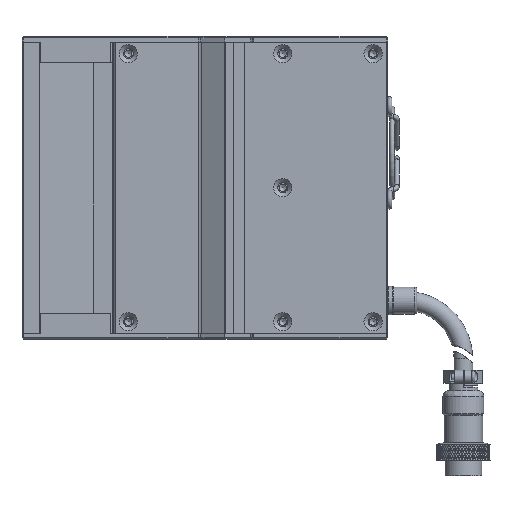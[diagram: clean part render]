
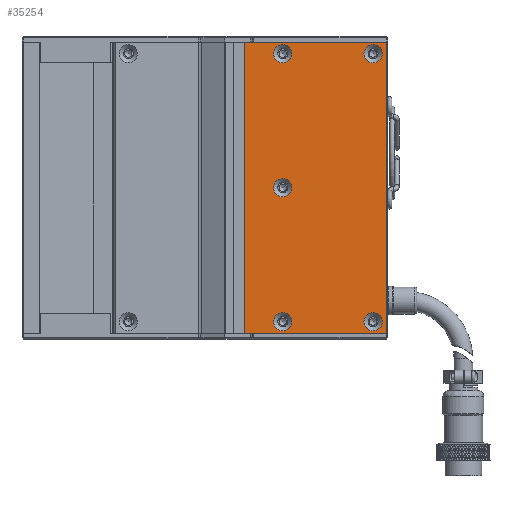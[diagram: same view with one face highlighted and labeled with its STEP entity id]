
A CAD part, left-side view. The second image highlights one B-rep face of the part: STEP entity #35254.
In plain terms, the highlighted planar face has unit normal (-1, 0, 0).
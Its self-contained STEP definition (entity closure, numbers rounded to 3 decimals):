
#906 = CARTESIAN_POINT ( 'NONE',  ( 163.975, 51.982, 300.011 ) ) ;
#2091 = VERTEX_POINT ( 'NONE', #115904 ) ;
#2145 = DIRECTION ( 'NONE',  ( -1., 0., 0. ) ) ;
#2334 = DIRECTION ( 'NONE',  ( 0., 0., 1. ) ) ;
#2800 = FACE_BOUND ( 'NONE', #61243, .T. ) ;
#2882 = LINE ( 'NONE', #26074, #117939 ) ;
#5876 = VERTEX_POINT ( 'NONE', #13876 ) ;
#7036 = DIRECTION ( 'NONE',  ( 0., -1., 0. ) ) ;
#7456 = ORIENTED_EDGE ( 'NONE', *, *, #105781, .T. ) ;
#10095 = LINE ( 'NONE', #49009, #87202 ) ;
#10440 = AXIS2_PLACEMENT_3D ( 'NONE', #72168, #101448, #110835 ) ;
#10711 = CARTESIAN_POINT ( 'NONE',  ( 163.975, 20.982, 204.861 ) ) ;
#13513 = EDGE_CURVE ( 'NONE', #82014, #82014, #19200, .T. ) ;
#13876 = CARTESIAN_POINT ( 'NONE',  ( 163.975, 16.482, 300.861 ) ) ;
#15675 = VECTOR ( 'NONE', #72703, 1000. ) ;
#16471 = EDGE_CURVE ( 'NONE', #58435, #58435, #117996, .T. ) ;
#17095 = EDGE_CURVE ( 'NONE', #45537, #66423, #120801, .T. ) ;
#18237 = CARTESIAN_POINT ( 'NONE',  ( 163.975, 15.982, 200.861 ) ) ;
#19200 = CIRCLE ( 'NONE', #25193, 3.15 ) ;
#21295 = VERTEX_POINT ( 'NONE', #113170 ) ;
#23503 = EDGE_LOOP ( 'NONE', ( #95966 ) ) ;
#24568 = EDGE_CURVE ( 'NONE', #47797, #2091, #49255, .T. ) ;
#24766 = EDGE_LOOP ( 'NONE', ( #108491 ) ) ;
#25193 = AXIS2_PLACEMENT_3D ( 'NONE', #10711, #94871, #28232 ) ;
#26074 = CARTESIAN_POINT ( 'NONE',  ( 163.975, 65.232, 200.861 ) ) ;
#26249 = AXIS2_PLACEMENT_3D ( 'NONE', #82634, #92758, #110352 ) ;
#27563 = FACE_BOUND ( 'NONE', #49649, .T. ) ;
#28232 = DIRECTION ( 'NONE',  ( 0., 0., 1. ) ) ;
#28892 = CARTESIAN_POINT ( 'NONE',  ( 163.975, 51.982, 204.861 ) ) ;
#29504 = ORIENTED_EDGE ( 'NONE', *, *, #13513, .F. ) ;
#34601 = VERTEX_POINT ( 'NONE', #112997 ) ;
#35254 = ADVANCED_FACE ( 'NONE', ( #40594, #79950, #27563, #2800, #98905, #86988 ), #100616, .F. ) ;
#35912 = LINE ( 'NONE', #18237, #15675 ) ;
#37603 = CARTESIAN_POINT ( 'NONE',  ( 163.975, 61.986, 200.861 ) ) ;
#38849 = CIRCLE ( 'NONE', #107717, 3.15 ) ;
#40594 = FACE_BOUND ( 'NONE', #71960, .T. ) ;
#40690 = CARTESIAN_POINT ( 'NONE',  ( 163.975, 51.982, 254.011 ) ) ;
#43178 = CARTESIAN_POINT ( 'NONE',  ( 163.975, 15.982, 300.861 ) ) ;
#45537 = VERTEX_POINT ( 'NONE', #46378 ) ;
#45621 = ORIENTED_EDGE ( 'NONE', *, *, #73446, .F. ) ;
#46378 = CARTESIAN_POINT ( 'NONE',  ( 163.975, 65.232, 200.861 ) ) ;
#47797 = VERTEX_POINT ( 'NONE', #73793 ) ;
#48030 = DIRECTION ( 'NONE',  ( 0., 0., 1. ) ) ;
#49009 = CARTESIAN_POINT ( 'NONE',  ( 163.975, 16.482, 300.861 ) ) ;
#49255 = LINE ( 'NONE', #43178, #68246 ) ;
#49402 = EDGE_CURVE ( 'NONE', #111524, #111524, #81762, .T. ) ;
#49649 = EDGE_LOOP ( 'NONE', ( #54154 ) ) ;
#49864 = ORIENTED_EDGE ( 'NONE', *, *, #66727, .T. ) ;
#53231 = AXIS2_PLACEMENT_3D ( 'NONE', #28892, #113495, #66684 ) ;
#54154 = ORIENTED_EDGE ( 'NONE', *, *, #49402, .F. ) ;
#54707 = EDGE_LOOP ( 'NONE', ( #92413, #49864, #7456, #45621, #61414, #112656 ) ) ;
#58131 = ORIENTED_EDGE ( 'NONE', *, *, #68417, .F. ) ;
#58435 = VERTEX_POINT ( 'NONE', #120577 ) ;
#61243 = EDGE_LOOP ( 'NONE', ( #58131 ) ) ;
#61414 = ORIENTED_EDGE ( 'NONE', *, *, #24568, .F. ) ;
#62425 = CARTESIAN_POINT ( 'NONE',  ( 163.975, 15.982, 200.861 ) ) ;
#66423 = VERTEX_POINT ( 'NONE', #37603 ) ;
#66684 = DIRECTION ( 'NONE',  ( 0., 0., 1. ) ) ;
#66727 = EDGE_CURVE ( 'NONE', #66423, #34601, #35912, .T. ) ;
#67994 = CARTESIAN_POINT ( 'NONE',  ( 163.975, 51.982, 296.861 ) ) ;
#68246 = VECTOR ( 'NONE', #7036, 1000. ) ;
#68417 = EDGE_CURVE ( 'NONE', #21295, #21295, #38849, .T. ) ;
#69530 = LINE ( 'NONE', #78491, #105987 ) ;
#69952 = DIRECTION ( 'NONE',  ( 0., -1., 0. ) ) ;
#71960 = EDGE_LOOP ( 'NONE', ( #29504 ) ) ;
#72168 = CARTESIAN_POINT ( 'NONE',  ( 163.975, 51.982, 250.861 ) ) ;
#72703 = DIRECTION ( 'NONE',  ( 0., -1., 0. ) ) ;
#73446 = EDGE_CURVE ( 'NONE', #2091, #5876, #69530, .T. ) ;
#73793 = CARTESIAN_POINT ( 'NONE',  ( 163.975, 65.232, 300.861 ) ) ;
#78491 = CARTESIAN_POINT ( 'NONE',  ( 163.975, 15.982, 300.861 ) ) ;
#79950 = FACE_BOUND ( 'NONE', #23503, .T. ) ;
#81762 = CIRCLE ( 'NONE', #114683, 3.15 ) ;
#82014 = VERTEX_POINT ( 'NONE', #102591 ) ;
#82634 = CARTESIAN_POINT ( 'NONE',  ( 163.975, 15.982, 300.861 ) ) ;
#83737 = CIRCLE ( 'NONE', #10440, 3.15 ) ;
#86988 = FACE_OUTER_BOUND ( 'NONE', #54707, .T. ) ;
#87202 = VECTOR ( 'NONE', #2334, 1000. ) ;
#91496 = DIRECTION ( 'NONE',  ( 0., 0., 1. ) ) ;
#92413 = ORIENTED_EDGE ( 'NONE', *, *, #17095, .T. ) ;
#92758 = DIRECTION ( 'NONE',  ( 1., 0., 0. ) ) ;
#93655 = EDGE_CURVE ( 'NONE', #45537, #47797, #2882, .T. ) ;
#94871 = DIRECTION ( 'NONE',  ( -1., 0., 0. ) ) ;
#95966 = ORIENTED_EDGE ( 'NONE', *, *, #16471, .F. ) ;
#97885 = DIRECTION ( 'NONE',  ( -1., 0., 0. ) ) ;
#98660 = DIRECTION ( 'NONE',  ( 0., -1., 0. ) ) ;
#98905 = FACE_BOUND ( 'NONE', #24766, .T. ) ;
#100616 = PLANE ( 'NONE',  #26249 ) ;
#101144 = VERTEX_POINT ( 'NONE', #40690 ) ;
#101448 = DIRECTION ( 'NONE',  ( -1., 0., 0. ) ) ;
#102591 = CARTESIAN_POINT ( 'NONE',  ( 163.975, 20.982, 208.011 ) ) ;
#105781 = EDGE_CURVE ( 'NONE', #34601, #5876, #10095, .T. ) ;
#105987 = VECTOR ( 'NONE', #69952, 1000. ) ;
#106015 = CARTESIAN_POINT ( 'NONE',  ( 163.975, 20.982, 296.861 ) ) ;
#107237 = DIRECTION ( 'NONE',  ( 0., 0., 1. ) ) ;
#107717 = AXIS2_PLACEMENT_3D ( 'NONE', #106015, #97885, #107237 ) ;
#108491 = ORIENTED_EDGE ( 'NONE', *, *, #111921, .F. ) ;
#109087 = VECTOR ( 'NONE', #98660, 1000. ) ;
#110352 = DIRECTION ( 'NONE',  ( 0., 0., -1. ) ) ;
#110835 = DIRECTION ( 'NONE',  ( 0., 0., 1. ) ) ;
#111524 = VERTEX_POINT ( 'NONE', #906 ) ;
#111921 = EDGE_CURVE ( 'NONE', #101144, #101144, #83737, .T. ) ;
#112656 = ORIENTED_EDGE ( 'NONE', *, *, #93655, .F. ) ;
#112997 = CARTESIAN_POINT ( 'NONE',  ( 163.975, 16.482, 200.861 ) ) ;
#113170 = CARTESIAN_POINT ( 'NONE',  ( 163.975, 20.982, 300.011 ) ) ;
#113495 = DIRECTION ( 'NONE',  ( -1., 0., 0. ) ) ;
#114683 = AXIS2_PLACEMENT_3D ( 'NONE', #67994, #2145, #48030 ) ;
#115904 = CARTESIAN_POINT ( 'NONE',  ( 163.975, 61.986, 300.861 ) ) ;
#117939 = VECTOR ( 'NONE', #91496, 1000. ) ;
#117996 = CIRCLE ( 'NONE', #53231, 3.15 ) ;
#120577 = CARTESIAN_POINT ( 'NONE',  ( 163.975, 51.982, 208.011 ) ) ;
#120801 = LINE ( 'NONE', #62425, #109087 ) ;
